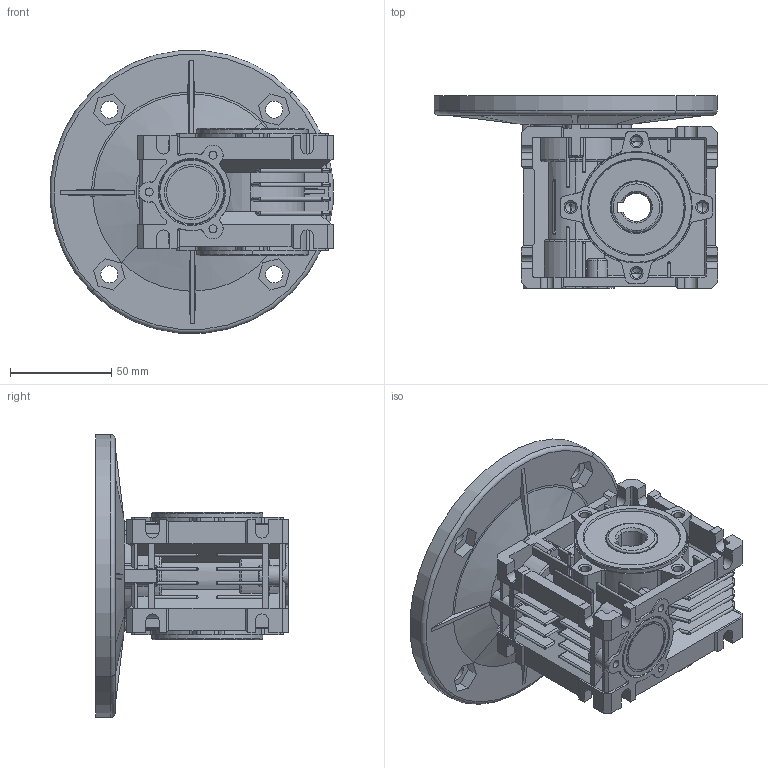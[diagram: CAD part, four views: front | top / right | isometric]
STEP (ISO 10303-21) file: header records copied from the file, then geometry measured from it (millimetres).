
FILE_DESCRIPTION(('STEP AP214'),'1');
FILE_NAME('NMRV030-63B5.stp','2020-07-27T02:00:02',(' '),(' '),'Spatial InterOp 3D',' ',' ');
FILE_SCHEMA(('automotive_design'));
Length unit declared in the file: millimetre
Products named in the file (4): 零件1; 零件2; 零件3; 零件4
Bounding box: 139.73 x 95 x 139.47 mm (x, y, z)
Volume: 385556.9 mm3; surface area: 123159.5 mm2
Topology: 4 solids, 10 shells, 1020 faces, 2749 edges, 1665 vertices
Faces by surface type: plane 462, cylinder 362, cone 80, sphere 64, torus 50, bspline 2
Entity records: 40276 total; most frequent: CARTESIAN_POINT 6730, DIRECTION 5435, ORIENTED_EDGE 5274, EDGE_CURVE 2637, AXIS2_PLACEMENT_3D 1936, VERTEX_POINT 1665, LINE 1563, VECTOR 1563
